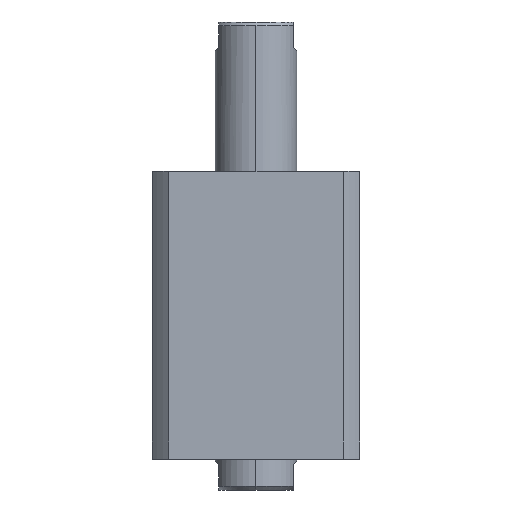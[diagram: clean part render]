
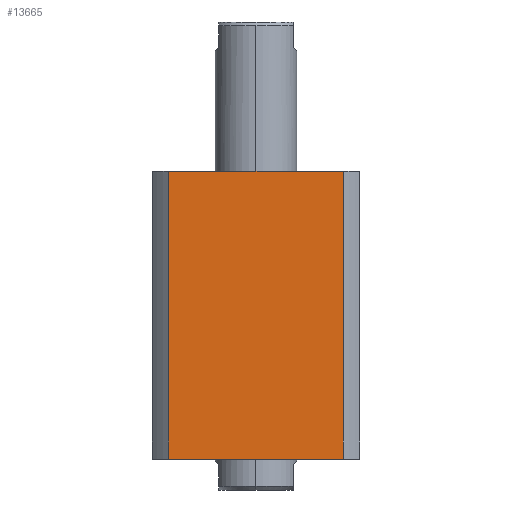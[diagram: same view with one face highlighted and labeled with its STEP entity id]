
A CAD part, front view. The second image highlights one B-rep face of the part: STEP entity #13665.
In plain terms, the highlighted planar face has unit normal (0, -1, 0) as drawn and (-1, 0, 0) by its records, which use the part's own axes.
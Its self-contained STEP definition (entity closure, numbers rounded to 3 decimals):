
#711 = EDGE_CURVE ( 'NONE', #12346, #6104, #7060, .T. ) ;
#1594 = VERTEX_POINT ( 'NONE', #8334 ) ;
#2450 = CARTESIAN_POINT ( 'NONE',  ( -57., 57., 158. ) ) ;
#3567 = DIRECTION ( 'NONE',  ( 0., 0., -1. ) ) ;
#3877 = CARTESIAN_POINT ( 'NONE',  ( -57., 47.971, -142. ) ) ;
#4228 = VECTOR ( 'NONE', #6642, 1000. ) ;
#4489 = FACE_OUTER_BOUND ( 'NONE', #12257, .T. ) ;
#4643 = ORIENTED_EDGE ( 'NONE', *, *, #14716, .F. ) ;
#5241 = VECTOR ( 'NONE', #3567, 1000. ) ;
#5243 = EDGE_CURVE ( 'NONE', #1594, #6203, #15298, .T. ) ;
#5443 = CARTESIAN_POINT ( 'NONE',  ( -57., 47.971, 158. ) ) ;
#6104 = VERTEX_POINT ( 'NONE', #6628 ) ;
#6184 = PLANE ( 'NONE',  #15611 ) ;
#6203 = VERTEX_POINT ( 'NONE', #9210 ) ;
#6628 = CARTESIAN_POINT ( 'NONE',  ( -57., -47.971, 158. ) ) ;
#6642 = DIRECTION ( 'NONE',  ( 0., -1., 0. ) ) ;
#6654 = ORIENTED_EDGE ( 'NONE', *, *, #711, .F. ) ;
#6915 = ORIENTED_EDGE ( 'NONE', *, *, #5243, .T. ) ;
#7060 = LINE ( 'NONE', #8796, #4228 ) ;
#7428 = DIRECTION ( 'NONE',  ( 0., 1., 0. ) ) ;
#8018 = LINE ( 'NONE', #3877, #14086 ) ;
#8205 = DIRECTION ( 'NONE',  ( 0., -1., 0. ) ) ;
#8266 = ORIENTED_EDGE ( 'NONE', *, *, #13169, .F. ) ;
#8334 = CARTESIAN_POINT ( 'NONE',  ( -57., 47.971, 0. ) ) ;
#8428 = CARTESIAN_POINT ( 'NONE',  ( -57., -47.971, -142. ) ) ;
#8462 = LINE ( 'NONE', #8428, #5241 ) ;
#8796 = CARTESIAN_POINT ( 'NONE',  ( -57., 57., 158. ) ) ;
#8851 = DIRECTION ( 'NONE',  ( 0., 0., 1. ) ) ;
#9210 = CARTESIAN_POINT ( 'NONE',  ( -57., -47.971, 0. ) ) ;
#9437 = CARTESIAN_POINT ( 'NONE',  ( -57., 57., 0. ) ) ;
#12257 = EDGE_LOOP ( 'NONE', ( #8266, #6915, #4643, #6654 ) ) ;
#12346 = VERTEX_POINT ( 'NONE', #5443 ) ;
#13169 = EDGE_CURVE ( 'NONE', #1594, #12346, #8018, .T. ) ;
#13665 = ADVANCED_FACE ( 'NONE', ( #4489 ), #6184, .F. ) ;
#14086 = VECTOR ( 'NONE', #8851, 1000. ) ;
#14698 = DIRECTION ( 'NONE',  ( 1., 0., 0. ) ) ;
#14716 = EDGE_CURVE ( 'NONE', #6104, #6203, #8462, .T. ) ;
#14912 = VECTOR ( 'NONE', #8205, 1000. ) ;
#15298 = LINE ( 'NONE', #9437, #14912 ) ;
#15611 = AXIS2_PLACEMENT_3D ( 'NONE', #2450, #14698, #7428 ) ;
